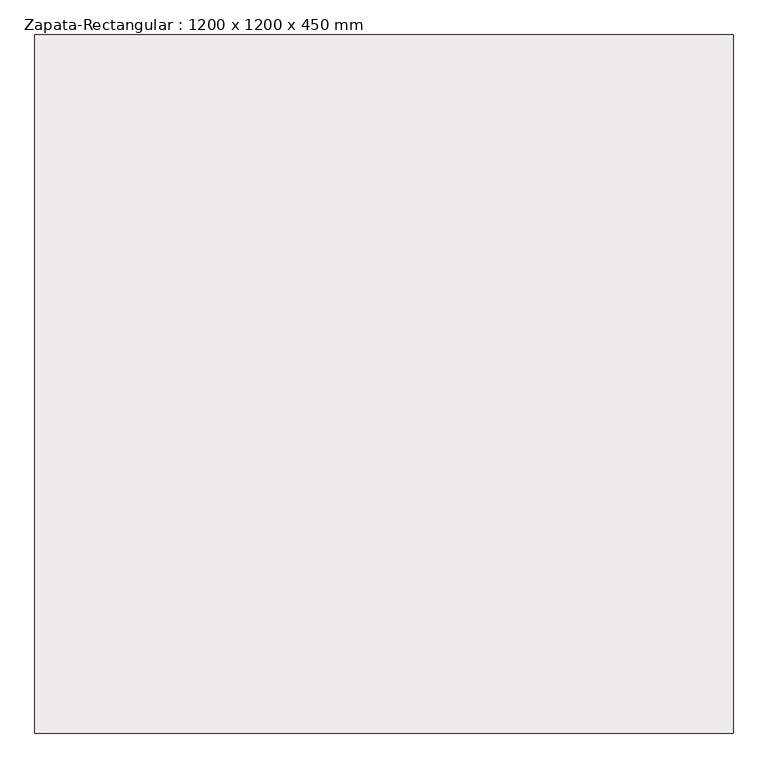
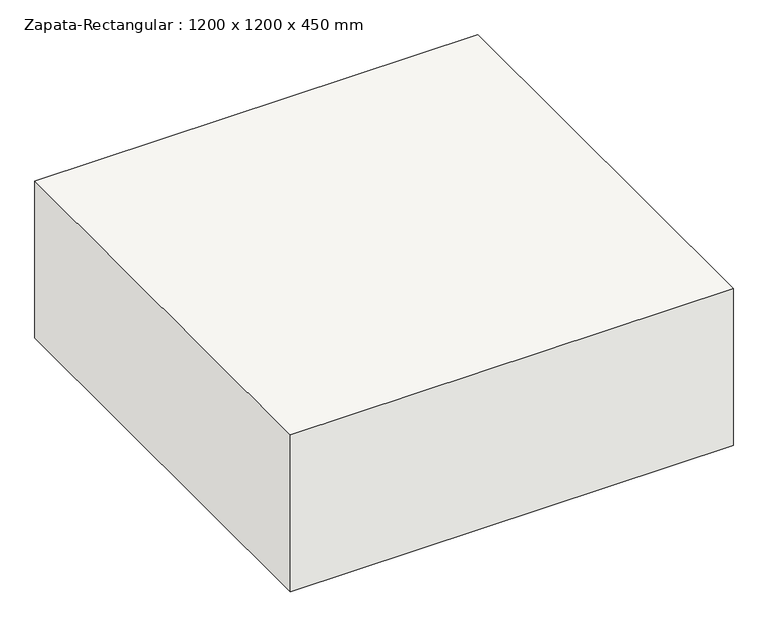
"""IFC4 building model written with IfcOpenShell, lengths in millimetres: slab geometry, Zapata-Rectangular : 1200 x 1200 x 450 mm."""

from ifc_helpers import new_model, si_unit, frame, origin, place, context, project, spatial, polyline, outline, extrude, source, transform, mapped, element, save


def zapata_rectangular_1200_x_1200_x_450_mm_1789818b(model_context):
    return source(origin(), model_context, "Body", "SweptSolid", [
        extrude(outline(polyline([(600.0, 600.0), (600.0, -600.0), (-600.0, -600.0), (-600.0, 600.0), (600.0, 600.0)])), frame((0.0, 0.0, -450.0), z_axis=(0.0, 0.0, 1.0), x_axis=(1.0, 0.0, 0.0)), (0.0, 0.0, 1.0), 450.0),
    ])


if __name__ == "__main__":
    model = new_model("IFC4")
    model_context = context("Model", 3, world=origin())
    ifc_project = project(units=[si_unit("LENGTHUNIT", "METRE", prefix="MILLI")], contexts=[model_context])
    site = spatial("IfcSite", under=ifc_project)
    building = spatial("IfcBuilding", under=site)
    placement = place(None, origin())
    zapata_rectangular_1200_x_1200_x_450_mm_shape = zapata_rectangular_1200_x_1200_x_450_mm_1789818b(model_context)
    element("IfcSlab", 1, ObjectType="Zapata-Rectangular : 1200 x 1200 x 450 mm", at=placement, inside=building, context=model_context, shape_type="MappedRepresentation", body=[
        mapped(zapata_rectangular_1200_x_1200_x_450_mm_shape, transform((0.0, 0.0, 0.0), x_axis=(1.0, 0.0, 0.0), y_axis=(0.0, 1.0, 0.0), z_axis=(0.0, 0.0, 1.0))),
    ])
    save(model, "model.ifc")
